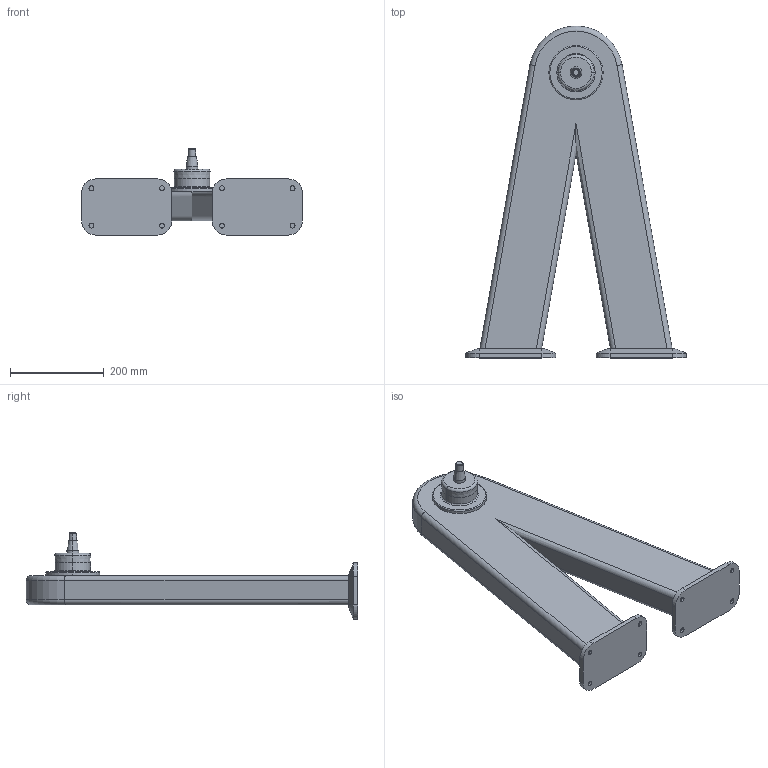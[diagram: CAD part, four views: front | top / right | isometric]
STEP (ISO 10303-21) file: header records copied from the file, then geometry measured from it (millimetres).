
FILE_DESCRIPTION (( 'STEP AP214' ), '1' );
FILE_NAME ('WP850_H610.STEP', '2014-09-08T13:01:30', ( '' ), ( '' ), 'SwSTEP 2.0', 'SolidWorks 2014', '' );
FILE_SCHEMA (( 'AUTOMOTIVE_DESIGN' ));
Length unit declared in the file: millimetre
Products named in the file (1): WP850_H610
Bounding box: 472.15 x 710 x 183.98 mm (x, y, z)
Volume: 11389524.7 mm3; surface area: 560744.6 mm2
Topology: 1 solids, 1 shells, 101 faces, 221 edges, 136 vertices
Faces by surface type: cylinder 41, plane 38, cone 14, torus 8
Entity records: 2795 total; most frequent: DIRECTION 513, CARTESIAN_POINT 489, ORIENTED_EDGE 442, EDGE_CURVE 221, AXIS2_PLACEMENT_3D 200, VERTEX_POINT 136, EDGE_LOOP 115, VECTOR 113
